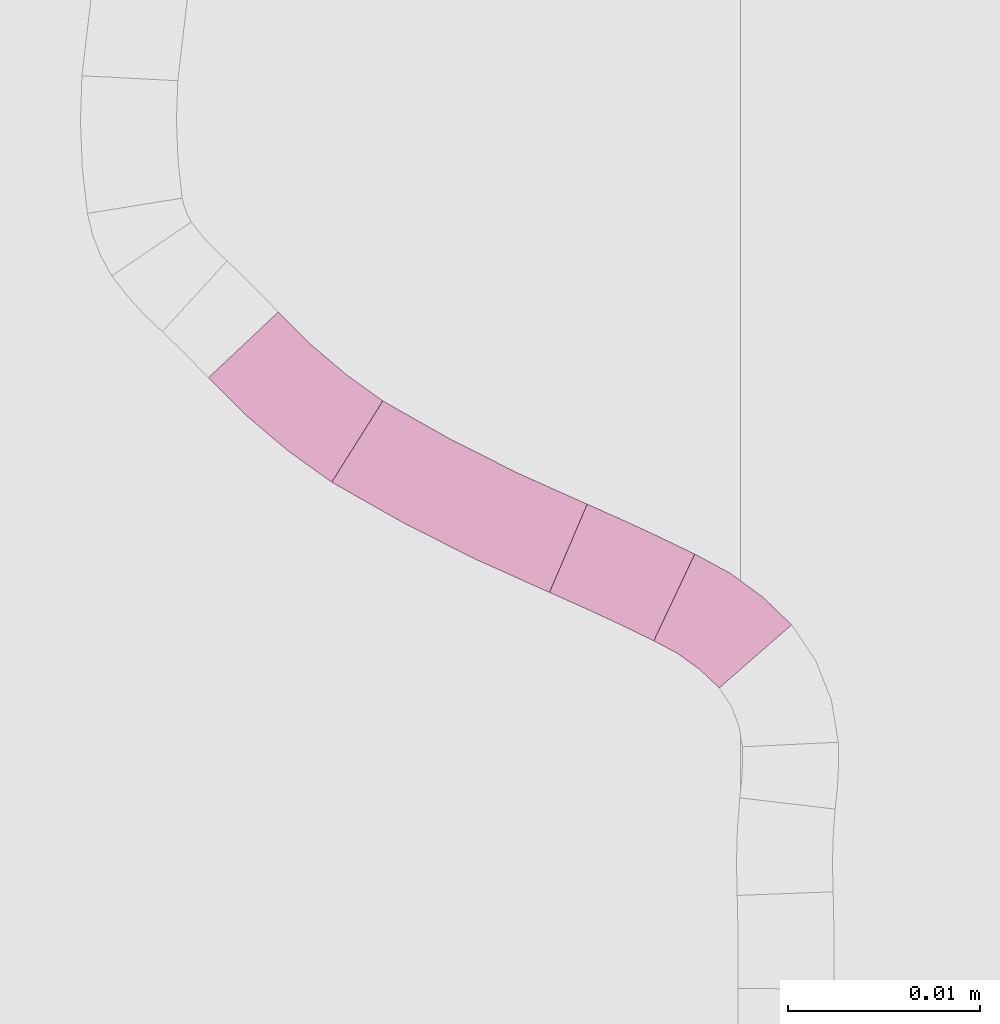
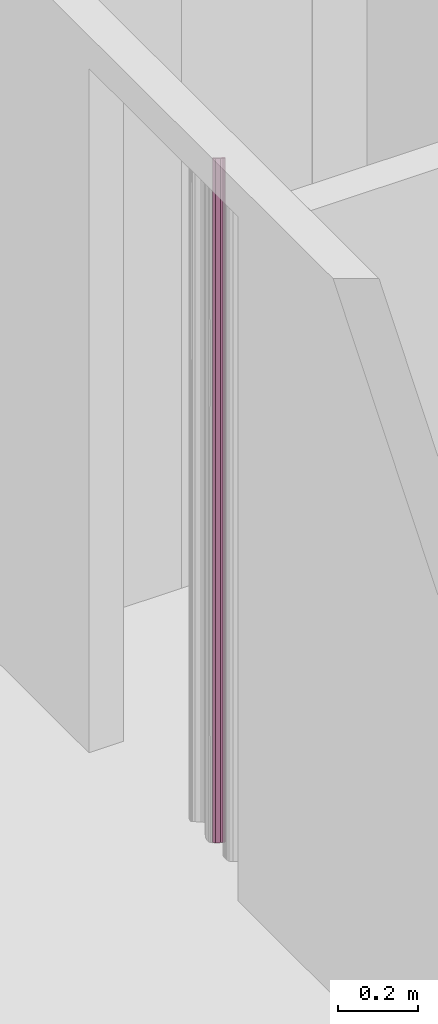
# One storey, part 196 of 418: 4 furnishings.
"""IFC2X3 building model written with IfcOpenShell, lengths in millimetres."""

from ifc_helpers import new_model, entity, si_unit, converted_unit, derived_unit, money_unit, point, direction, frame, frame_2d, origin_with_axes, place, context, subcontext, project, spatial, polyline, circle_curve, parameter, trimmed, segment, composite_curve, outline, extrude, material, type_object, element, save


model = new_model("IFC2X3")

# Units and contexts
model_context = context("Model", 3, precision=0.01, world=origin_with_axes(), true_north=direction((0.0, 1.0)))
body_context = subcontext(model_context, "Body", "Model", "MODEL_VIEW")
ifc_project = project(units=[si_unit("LENGTHUNIT", "METRE", prefix="MILLI"), si_unit("AREAUNIT", "SQUARE_METRE"), si_unit("VOLUMEUNIT", "CUBIC_METRE"), converted_unit("PLANEANGLEUNIT", "DEGREE", entity("IfcPlaneAngleMeasure", 0.0174532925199), si_unit("PLANEANGLEUNIT", "RADIAN"), dimensions=[0, 0, 0, 0, 0, 0, 0]), si_unit("SOLIDANGLEUNIT", "STERADIAN"), money_unit("EUR"), converted_unit("TIMEUNIT", "Year", entity("IfcTimeMeasure", 31556926.0), si_unit("TIMEUNIT", "SECOND"), dimensions=[0, 0, 1, 0, 0, 0, 0]), si_unit("MASSUNIT", "GRAM", prefix="KILO"), si_unit("THERMODYNAMICTEMPERATUREUNIT", "DEGREE_CELSIUS"), si_unit("LUMINOUSINTENSITYUNIT", "LUMEN"), si_unit("ENERGYUNIT", "JOULE", prefix="MEGA"), derived_unit("THERMALCONDUCTANCEUNIT", [(si_unit("POWERUNIT", "WATT"), 1), (si_unit("LENGTHUNIT", "METRE"), -1), (si_unit("THERMODYNAMICTEMPERATUREUNIT", "KELVIN"), -1)]), derived_unit("SPECIFICHEATCAPACITYUNIT", [(si_unit("ENERGYUNIT", "JOULE"), 1), (si_unit("MASSUNIT", "GRAM", prefix="KILO"), -1), (si_unit("THERMODYNAMICTEMPERATUREUNIT", "KELVIN"), -1)]), derived_unit("MASSDENSITYUNIT", [(si_unit("MASSUNIT", "GRAM", prefix="KILO"), 1), (si_unit("VOLUMEUNIT", "CUBIC_METRE"), -1)])], contexts=[model_context])

# Site, building, storey
site_placement = place(None, origin_with_axes())
site = spatial("IfcSite", under=ifc_project, at=site_placement, Name="Paldiski mnt 245/1, Tallinn, Harjumaa", CompositionType="COMPLEX")
building_placement = place(site_placement, origin_with_axes())
building = spatial("IfcBuilding", under=site, at=building_placement, Name="RKAS Hoone üldnimetus (kasutust iseloomustav) -> IFC Project Manager -> SOLIBRI", CompositionType="ELEMENT")
storey_placement = place(building_placement, origin_with_axes())
storey = spatial("IfcBuildingStorey", under=building, at=storey_placement, Name="Esimene korrus", CompositionType="ELEMENT", Elevation=0.0)

# Furnishings
ifc_material = material(Name="KON-00_GENEERILINE - KONSTRUKTSIOON")
furniture_type = type_object("IfcFurnitureType", Name="KON-00_GENEERILINE - KONSTRUKTSIOON 5", AssemblyPlace="NOTDEFINED")
furnishing_1_placement = place(storey_placement, frame((-45050.107345, -1113.92095316, 0.0), z_axis=(0.0, 0.0, 1.0), x_axis=(0.680436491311, -0.732807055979, 0.0)))
element("IfcFurnishingElement", 1, at=furnishing_1_placement, inside=storey, type_object=furniture_type, material=ifc_material, Name="SS-92", context=body_context, shape_type="SweptSolid", body=[
    extrude(outline(composite_curve([segment(trimmed(circle_curve(frame_2d((0.0, 35.236860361), x_axis=(0.0, -1.0)), 35.236860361), [point((0.0, 0.0)), parameter(0.0)], [point((8.35629609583, 1.00516972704)), parameter(13.7181820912)], True, "CARTESIAN"), True, "CONTINUOUS"), segment(polyline([(8.35629609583, 1.00516972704), (7.06777310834, 5.83763744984)]), True, "CONTINUOUS"), segment(trimmed(circle_curve(frame_2d((0.0, 35.2368603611), x_axis=(-0.00107801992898, -0.999999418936)), 30.2368603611), [point((7.06777310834, 5.83763744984)), parameter(13.5795357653)], [point((-0.0325959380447, 5.00001756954)), parameter(0.0)], False, "CARTESIAN"), True, "CONTINUOUS"), segment(polyline([(-0.0325959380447, 5.00001756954), (0.0, 0.0)]), True, "CONTINUOUS")], self_intersect=False)), origin_with_axes(), (0.0, 0.0, 1.0), 2100.0),
])
furnishing_2_placement = place(storey_placement, frame((-45043.6848207, -1119.36055174, 0.0), z_axis=(0.0, 0.0, 1.0), x_axis=(0.857874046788, -0.513860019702, 0.0)))
element("IfcFurnishingElement", 2, at=furnishing_2_placement, inside=storey, type_object=furniture_type, material=ifc_material, Name="SS-93", context=body_context, shape_type="SweptSolid", body=[
    extrude(outline(composite_curve([segment(trimmed(circle_curve(frame_2d((0.0, 89.4661623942), x_axis=(0.0, -1.0)), 89.4661623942), [point((0.0, 0.0)), parameter(0.0)], [point((12.6817496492, 0.903374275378)), parameter(8.14907285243)], True, "CARTESIAN"), True, "CONTINUOUS"), segment(polyline([(12.6817496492, 0.903374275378), (12.006754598, 5.85772721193)]), True, "CONTINUOUS"), segment(trimmed(circle_curve(frame_2d((0.0, 89.4661623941), x_axis=(0.00131340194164, -0.999999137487)), 84.4661623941), [point((12.006754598, 5.85772721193)), parameter(8.09694858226)], [point((0.110938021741, 5.00007285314)), parameter(0.0)], False, "CARTESIAN"), True, "CONTINUOUS"), segment(polyline([(0.110938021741, 5.00007285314), (0.0, 0.0)]), True, "CONTINUOUS")], self_intersect=False)), origin_with_axes(), (0.0, 0.0, 1.0), 2100.0),
])
furnishing_3_placement = place(storey_placement, frame((-45026.9083637, -1127.62291904, 0.0), z_axis=(0.0, 0.0, 1.0), x_axis=(-0.89720364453, 0.441617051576, 0.0)))
element("IfcFurnishingElement", 3, at=furnishing_3_placement, inside=storey, type_object=furniture_type, material=ifc_material, Name="SS-94", context=body_context, shape_type="SweptSolid", body=[
    extrude(outline(composite_curve([segment(trimmed(circle_curve(frame_2d((-1.34435865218e-10, 130.268930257), x_axis=(0.000597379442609, -0.999999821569)), 135.268930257), [point((0.0808068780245, -4.99997586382)), parameter(0.0)], [point((6.25314521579, -4.85538904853)), parameter(2.61535789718)], True, "CARTESIAN"), True, "CONTINUOUS"), segment(polyline([(6.25314521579, -4.85538904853), (5.98760848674, 0.13767830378)]), True, "CONTINUOUS"), segment(trimmed(circle_curve(frame_2d((0.0, 130.268930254), x_axis=(0.0, -1.0)), 130.268930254), [point((5.98760848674, 0.13767830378)), parameter(2.63443942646)], [point((0.0, 0.0)), parameter(0.0)], False, "CARTESIAN"), True, "CONTINUOUS"), segment(polyline([(0.0, 0.0), (0.0808068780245, -4.99997586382)]), True, "CONTINUOUS")], self_intersect=False)), origin_with_axes(), (0.0, 0.0, 1.0), 2100.0),
])
furnishing_4_placement = place(storey_placement, frame((-45023.4971036, -1130.07941139, 0.0), z_axis=(0.0, 0.0, 1.0), x_axis=(-0.677651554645, 0.735383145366, 0.0)))
element("IfcFurnishingElement", 4, at=furnishing_4_placement, inside=storey, type_object=furniture_type, material=ifc_material, Name="SS-95", context=body_context, shape_type="SweptSolid", body=[
    extrude(outline(composite_curve([segment(trimmed(circle_curve(frame_2d((0.0, 10.469409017), x_axis=(-0.00862015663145, -0.99996284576)), 15.469409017), [point((-0.133348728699, -4.99942524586)), parameter(0.0)], [point((5.99610240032, -3.79065309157)), parameter(23.2997920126)], True, "CARTESIAN"), True, "CONTINUOUS"), segment(polyline([(5.99610240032, -3.79065309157), (4.11810876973, 0.843937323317)]), True, "CONTINUOUS"), segment(trimmed(circle_curve(frame_2d((0.0, 10.469409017), x_axis=(0.0, -1.0)), 10.469409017), [point((4.11810876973, 0.843937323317)), parameter(23.1629094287)], [point((0.0, 0.0)), parameter(0.0)], False, "CARTESIAN"), True, "CONTINUOUS"), segment(polyline([(0.0, 0.0), (-0.133348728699, -4.99942524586)]), True, "CONTINUOUS")], self_intersect=False)), origin_with_axes(), (0.0, 0.0, 1.0), 2100.0),
])

save(model, "model.ifc")
